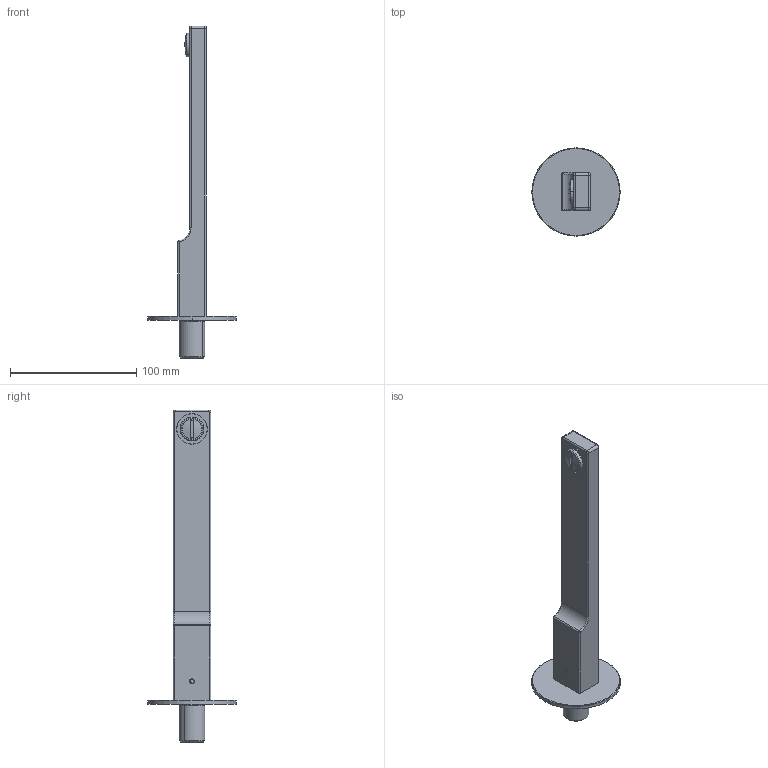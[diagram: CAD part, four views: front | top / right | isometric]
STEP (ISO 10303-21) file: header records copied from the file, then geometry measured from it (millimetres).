
FILE_DESCRIPTION (( 'STEP AP203' ), '1' );
FILE_NAME ('CMI92.STEP', '2023-12-05T16:20:05', ( '' ), ( '' ), 'SwSTEP 2.0', 'SolidWorks 2021', '' );
FILE_SCHEMA (( 'CONFIG_CONTROL_DESIGN' ));
Length unit declared in the file: millimetre
Products named in the file (8): C11.14.0004; C12.00.0007; C24.2661.00; CMI92; C25.1249.00.0; C24.1936.00.1; C11.10.0061; C13.00.0014
Assembly tree (10 placements, depth 2):
  CMI92
    C24.1936.00.1
    C24.2661.00
    C11.10.0061  x2
    C25.1249.00.0
    C12.00.0007  x3
    C13.00.0014
    C11.14.0004
Bounding box: 70 x 70 x 263 mm (x, y, z)
Volume: 120103.6 mm3; surface area: 45257.8 mm2
Topology: 10 solids, 10 shells, 258 faces, 568 edges, 342 vertices
Faces by surface type: cylinder 89, plane 73, cone 52, torus 38, bspline 4, sphere 2
Entity records: 6995 total; most frequent: CARTESIAN_POINT 1220, DIRECTION 1131, ORIENTED_EDGE 924, AXIS2_PLACEMENT_3D 465, EDGE_CURVE 462, VERTEX_POINT 284, EDGE_LOOP 248, CIRCLE 241
